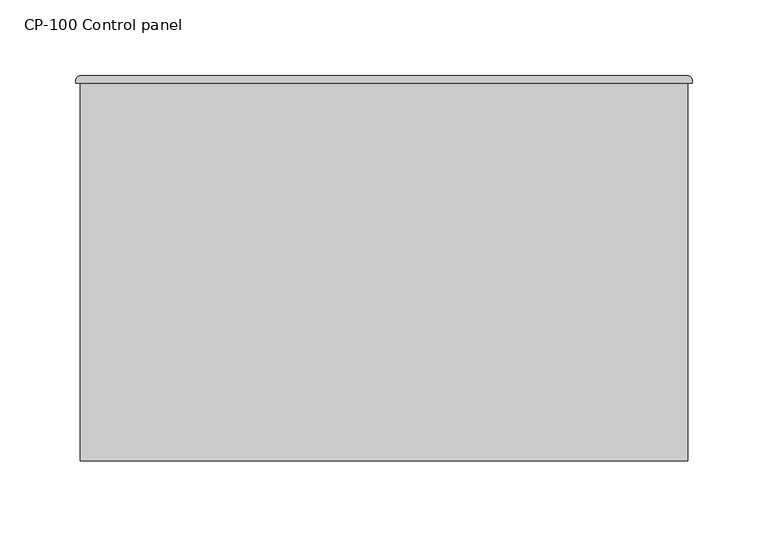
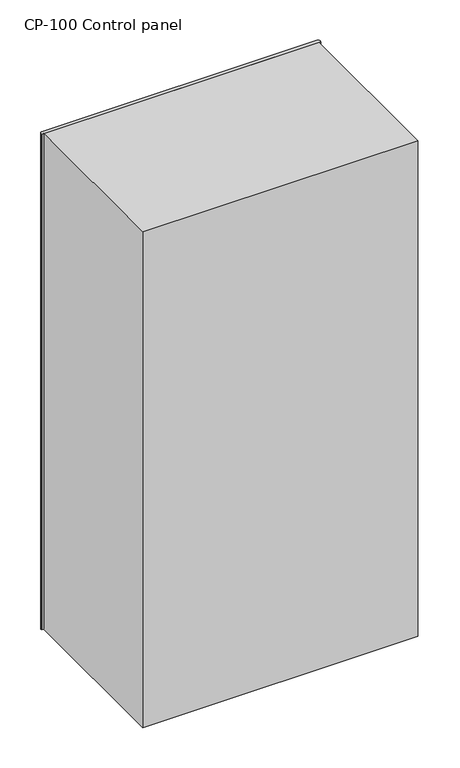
"""IFC4 building model written with IfcOpenShell, lengths in millimetres: proxy geometry, CP-100_Control_Panel_Wallmount_with_3inch_Strut_BIM_Model : CP-100 Control panel."""

from ifc_helpers import new_model, si_unit, point, frame, frame_2d, origin, place, context, project, spatial, polyline, circle_curve, trimmed, segment, composite_curve, outline, extrude, source, transform, mapped, element, save


def cp_100_control_panel_1df38591(model_context):
    return source(origin(), model_context, "Body", "SweptSolid", [
        extrude(outline(composite_curve([segment(trimmed(circle_curve(frame_2d((841.0, -16.7274277)), 20.0), [point((841.0, -36.7274277))], [point((841.0, 3.2725723))], False, "CARTESIAN"), True, "CONTINUOUS"), segment(trimmed(circle_curve(frame_2d((841.0, -16.7274277)), 20.0), [point((841.0, 3.2725723))], [point((841.0, -36.7274277))], False, "CARTESIAN"), True, "CONTINUOUS")], self_intersect=False), holes=[polyline([(848.2746144, -18.5031745), (848.2746144, -13.5031745), (833.2746144, -13.5031745), (833.2746144, -18.5031745), (848.2746144, -18.5031745)])]), frame((0.0, 400.4502207, 0.0), z_axis=(0.0, 1.0, 0.0), x_axis=(0.0, 0.0, 1.0)), (0.0, 0.0, 1.0), 4.5606129),
        extrude(outline(composite_curve([segment(trimmed(circle_curve(frame_2d((325.0, 509.4983329)), 3.0), [point((325.0, 512.4983329))], [point((328.0, 509.4983329))], False, "CARTESIAN"), True, "CONTINUOUS"), segment(polyline([(328.0, 509.4983329), (328.0, 507.616618), (-78.0, 507.616618), (-78.0, 509.4983329)]), True, "CONTINUOUS"), segment(trimmed(circle_curve(frame_2d((-75.0, 509.4983329)), 3.0), [point((-78.0, 509.4983329))], [point((-75.0, 512.4983329))], False, "CARTESIAN"), True, "CONTINUOUS"), segment(polyline([(-75.0, 512.4983329), (325.0, 512.4983329)]), True, "CONTINUOUS")], self_intersect=False)), frame((0.0, 0.0, 460.0), z_axis=(0.0, 0.0, 1.0), x_axis=(1.0, 0.0, 0.0)), (0.0, 0.0, 1.0), 762.0),
        extrude(outline(polyline([(325.0, 507.616618), (325.0, 258.4983329), (-75.0, 258.4983329), (-75.0, 507.616618), (325.0, 507.616618)])), frame((0.0, 0.0, 460.0), z_axis=(0.0, 0.0, 1.0), x_axis=(1.0, 0.0, 0.0)), (0.0, 0.0, 1.0), 762.0),
    ])


if __name__ == "__main__":
    model = new_model("IFC4")
    model_context = context("Model", 3, world=origin())
    ifc_project = project(units=[si_unit("LENGTHUNIT", "METRE", prefix="MILLI")], contexts=[model_context])
    site = spatial("IfcSite", under=ifc_project)
    building = spatial("IfcBuilding", under=site)
    placement = place(None, origin())
    cp_100_control_panel_shape = cp_100_control_panel_1df38591(model_context)
    element("IfcBuildingElementProxy", 1, Name="CP-100_Control_Panel_Wallmount_with_3inch_Strut_BIM_Model : CP-100 Control panel", ObjectType="CP-100_Control_Panel_Wallmount_with_3inch_Strut_BIM_Model : CP-100 Control panel", at=placement, inside=building, context=model_context, shape_type="MappedRepresentation", body=[
        mapped(cp_100_control_panel_shape, transform((0.0, 0.0, 0.0), x_axis=(1.0, 0.0, 0.0), y_axis=(0.0, 1.0, 0.0), z_axis=(0.0, 0.0, 1.0))),
    ])
    save(model, "model.ifc")
